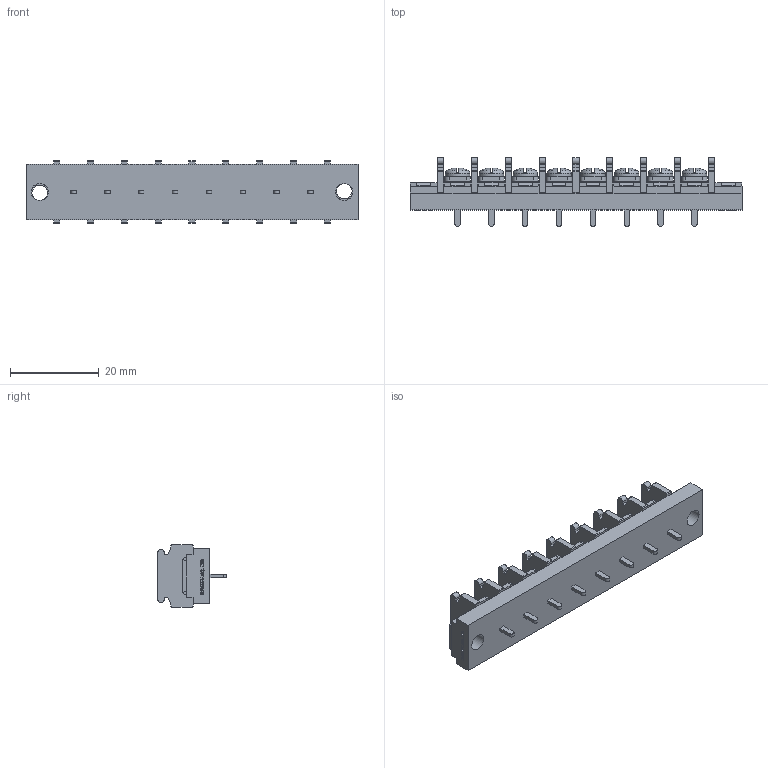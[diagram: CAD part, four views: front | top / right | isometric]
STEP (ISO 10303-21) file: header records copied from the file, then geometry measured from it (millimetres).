
FILE_DESCRIPTION(/* description */ ('Alibre Inc.'),/* implementation_level */ '2;1');
FILE_NAME(/* name */ 'export0',/* time_stamp */ '2015-10-23T19:20:00+09:00',/* author */ (''),/* organization */ (''),/* preprocessor_version */ 'ST-DEVELOPER v14',/* originating_system */ 'Alibre',/* authorisation */ '');
FILE_SCHEMA (('CONFIG_CONTROL_DESIGN'));
Length unit declared in the file: centimetre
Products named in the file (1): ID_1
Bounding box: 74.78 x 15.5 x 14 mm (x, y, z)
Volume: 6644.3 mm3; surface area: 6296.1 mm2
Topology: 1 solids, 1 shells, 1336 faces, 3660 edges, 2400 vertices
Faces by surface type: plane 1034, cylinder 134, bspline 104, cone 32, torus 16, sphere 16
Full cylindrical faces by diameter (mm): 3 x8, 3.5 x2, 3.8 x2, 5.5 x8
Entity records: 40165 total; most frequent: CARTESIAN_POINT 8565, ORIENTED_EDGE 7208, DIRECTION 5046, EDGE_CURVE 3604, VECTOR 2644, LINE 2644, VERTEX_POINT 2380, AXIS2_PLACEMENT_3D 1685
